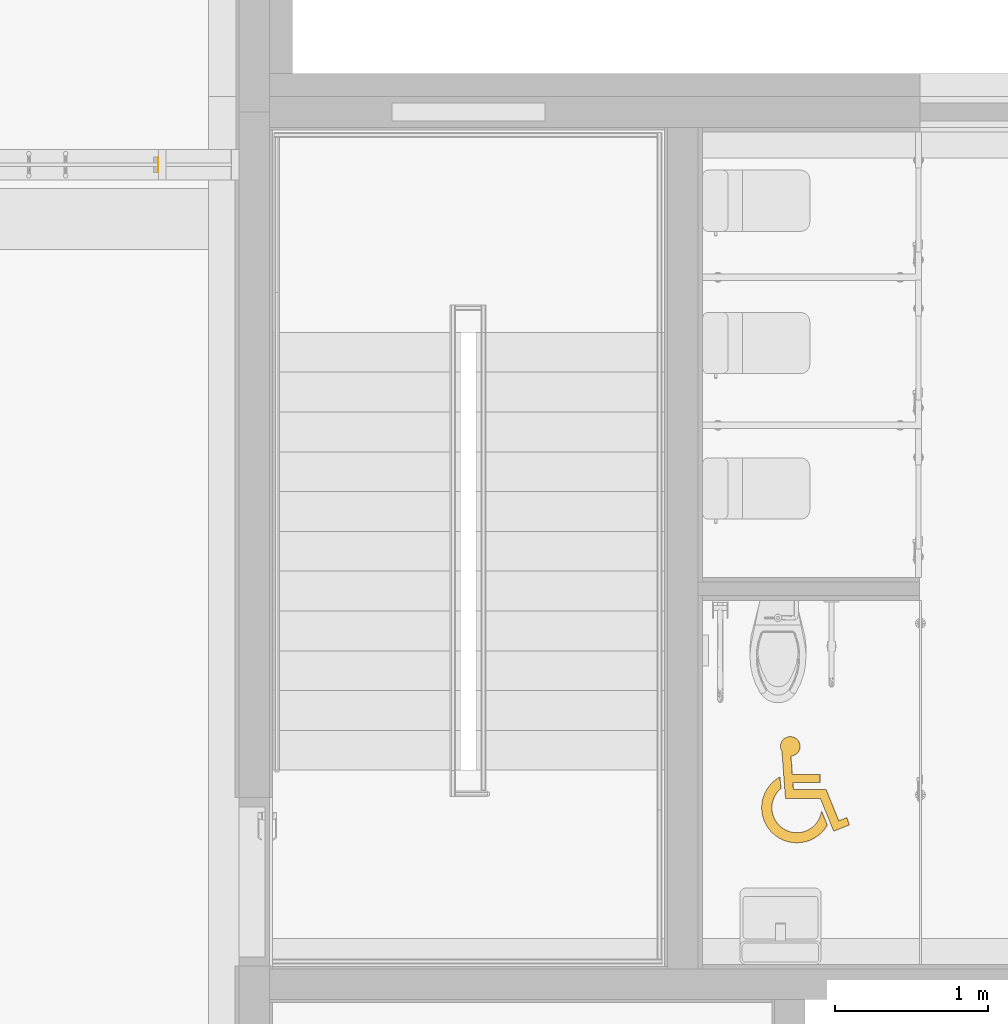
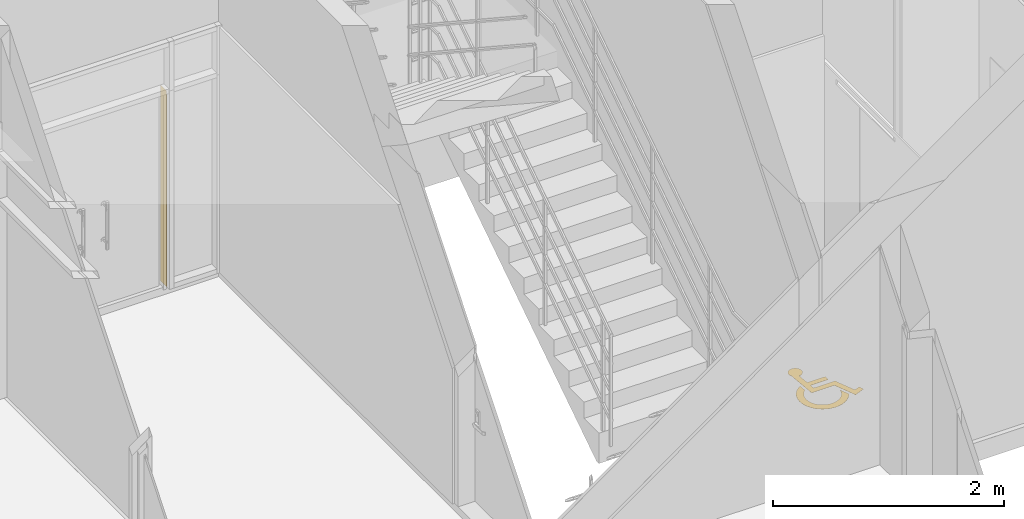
# One storey, part 72 of 81: 1 curtain wall, 1 door, 1 opening, 1 element without a shape of its own.
"""IFC2X3 building model written with IfcOpenShell, lengths in millimetres."""

from ifc_helpers import new_model, entity, si_unit, converted_unit, derived_unit, direction, frame, frame_2d, origin, place, context, subcontext, project, spatial, polyline, circle_curve, parameter, trimmed, segment, composite_curve, rectangle, outline, extrude, source, transform, mapped, material, material_list, layer, layer_set, layer_usage, type_object, type_shapes, element, aggregate, save


model = new_model("IFC2X3")

# Units and contexts
model_context = context("Model", 3, precision=0.01, world=origin(), true_north=direction((6.123031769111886e-17, 1.0)))
body_context = subcontext(model_context, "Body", "Model", "MODEL_VIEW")
ifc_project = project(units=[si_unit("LENGTHUNIT", "METRE", prefix="MILLI"), si_unit("AREAUNIT", "SQUARE_METRE"), si_unit("VOLUMEUNIT", "CUBIC_METRE"), converted_unit("PLANEANGLEUNIT", "DEGREE", entity("IfcRatioMeasure", 0.017453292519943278), si_unit("PLANEANGLEUNIT", "RADIAN"), dimensions=[0, 0, 0, 0, 0, 0, 0]), si_unit("MASSUNIT", "GRAM", prefix="KILO"), derived_unit("MASSDENSITYUNIT", [(si_unit("MASSUNIT", "GRAM", prefix="KILO"), 1), (si_unit("LENGTHUNIT", "METRE"), -3)]), derived_unit("MOMENTOFINERTIAUNIT", [(si_unit("LENGTHUNIT", "METRE"), 4)]), si_unit("TIMEUNIT", "SECOND"), si_unit("FREQUENCYUNIT", "HERTZ"), si_unit("THERMODYNAMICTEMPERATUREUNIT", "DEGREE_CELSIUS"), derived_unit("THERMALTRANSMITTANCEUNIT", [(si_unit("MASSUNIT", "GRAM", prefix="KILO"), 1), (si_unit("THERMODYNAMICTEMPERATUREUNIT", "KELVIN"), -1), (si_unit("TIMEUNIT", "SECOND"), -3)]), derived_unit("VOLUMETRICFLOWRATEUNIT", [(si_unit("LENGTHUNIT", "METRE"), 3), (si_unit("TIMEUNIT", "SECOND"), -1)]), derived_unit("MASSFLOWRATEUNIT", [(si_unit("MASSUNIT", "GRAM", prefix="KILO"), 1), (si_unit("TIMEUNIT", "SECOND"), -1)]), derived_unit("ROTATIONALFREQUENCYUNIT", [(si_unit("TIMEUNIT", "SECOND"), -1)]), si_unit("ELECTRICCURRENTUNIT", "AMPERE"), si_unit("ELECTRICVOLTAGEUNIT", "VOLT"), si_unit("POWERUNIT", "WATT"), si_unit("FORCEUNIT", "NEWTON", prefix="KILO"), si_unit("ILLUMINANCEUNIT", "LUX"), si_unit("LUMINOUSFLUXUNIT", "LUMEN"), si_unit("LUMINOUSINTENSITYUNIT", "CANDELA"), derived_unit("USERDEFINED", [(si_unit("MASSUNIT", "GRAM", prefix="KILO"), -1), (si_unit("LENGTHUNIT", "METRE"), -2), (si_unit("TIMEUNIT", "SECOND"), 3), (si_unit("LUMINOUSFLUXUNIT", "LUMEN"), 1)]), derived_unit("SOUNDPOWERUNIT", [(si_unit("MASSUNIT", "GRAM", prefix="KILO"), 1), (si_unit("LENGTHUNIT", "METRE"), 2), (si_unit("TIMEUNIT", "SECOND"), -3)]), derived_unit("SOUNDPRESSUREUNIT", [(si_unit("MASSUNIT", "GRAM", prefix="KILO"), 1), (si_unit("LENGTHUNIT", "METRE"), -1), (si_unit("TIMEUNIT", "SECOND"), -2)]), derived_unit("LINEARVELOCITYUNIT", [(si_unit("LENGTHUNIT", "METRE"), 1), (si_unit("TIMEUNIT", "SECOND"), -1)]), si_unit("PRESSUREUNIT", "PASCAL"), derived_unit("USERDEFINED", [(si_unit("LENGTHUNIT", "METRE"), -2), (si_unit("MASSUNIT", "GRAM", prefix="KILO"), 1), (si_unit("TIMEUNIT", "SECOND"), -2)]), derived_unit("LINEARFORCEUNIT", [(si_unit("MASSUNIT", "GRAM", prefix="KILO"), 1), (si_unit("LENGTHUNIT", "METRE"), 1), (si_unit("TIMEUNIT", "SECOND"), -2), (si_unit("LENGTHUNIT", "METRE"), -1)]), derived_unit("PLANARFORCEUNIT", [(si_unit("MASSUNIT", "GRAM", prefix="KILO"), 1), (si_unit("LENGTHUNIT", "METRE"), 1), (si_unit("TIMEUNIT", "SECOND"), -2), (si_unit("LENGTHUNIT", "METRE"), -2)])], contexts=[model_context])

# Site, building, storey
site_placement = place(None, frame((-14167.972527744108, -657.2125860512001, 0.0)))
site = spatial("IfcSite", under=ifc_project, at=site_placement, Name="Default", CompositionType="ELEMENT")
building_placement = place(site_placement, origin())
building = spatial("IfcBuilding", under=site, at=building_placement, Name="Sample Building", CompositionType="ELEMENT")
storey_placement = place(building_placement, frame((0.0, 0.0, 13400.0)))
storey = spatial("IfcBuildingStorey", under=building, at=storey_placement, Name="지상 4층", CompositionType="ELEMENT", Elevation=13400.00000000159)

# Curtain walls, opening
curtain_wall_type_1 = type_object("IfcCurtainWallType", Name="커튼월:CW112-스테인리스 스틸 커튼월", PredefinedType="NOTDEFINED")
curtain_wall_1_placement = place(storey_placement, frame((0.0, 0.0, -13400.0)))
curtain_wall_1 = element("IfcCurtainWall", 1, at=curtain_wall_1_placement, inside=storey, type_object=curtain_wall_type_1, Name="커튼월:CW112-스테인리스 스틸 커튼월", ObjectType="커튼월:CW112-스테인리스 스틸 커튼월")
ifc_material_1 = material(Name="KBIMS-콘크리트")
ifc_layer = layer(ifc_material_1, 100.0)
ifc_layer_set = layer_set([ifc_layer], Name="커튼월:CW112-스테인리스 스틸 커튼월")
ifc_layer_usage = layer_usage(ifc_layer_set, "AXIS2", "NEGATIVE", 50.0)
curtain_wall_type_2 = type_object("IfcCurtainWallType", Name="기본 벽:WA111-철근콘크리트구조 벽 100mm", PredefinedType="NOTDEFINED", material=ifc_layer_set)
curtain_wall_2_placement = place(storey_placement, frame((29541.09100563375, 27712.17793519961, 80.0), z_axis=(0.0, 0.0, 1.0), x_axis=(-1.0, 0.0, 0.0)))
curtain_wall_2 = element("IfcCurtainWall", 2, at=curtain_wall_2_placement, type_object=curtain_wall_type_2, material=ifc_layer_usage, Name="기본 벽:WA111-철근콘크리트구조 벽 100mm", ObjectType="기본 벽:WA111-철근콘크리트구조 벽 100mm", context=body_context, shape_type="SweptSolid", body=[
    extrude(rectangle(XDim=0.2563623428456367, YDim=99.99999999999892, at=frame_2d((0.0, -2.1671553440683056e-12), x_axis=(1.0, 0.0))), frame((0.12818117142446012, 0.0, 0.0)), (0.0, 0.0, 1.0), 2075.0000000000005),
])
opening_placement = place(curtain_wall_2_placement, frame((1450.2563623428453, 50.0, -25.0)))
element("IfcOpeningElement", 3, at=opening_placement, cuts=curtain_wall_2, Name="DR121-쌍여닫이문(철재, 일반, 양개):DR121-쌍여닫이문(유리, 일반, 양개) 1450x2100mm 2:1", ObjectType="Opening", context=body_context, shape_type="SweptSolid", body=[
    extrude(rectangle(XDim=2099.9999999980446, YDim=1449.9999999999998, at=frame_2d((1049.9999999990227, 724.9999999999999), x_axis=(1.0, 0.0))), frame((0.0, 0.0, 0.0), z_axis=(0.0, -1.0, 0.0), x_axis=(0.0, 0.0, 1.0)), (0.0, 0.0, 1.0), 100.0),
])
aggregate(curtain_wall_1, [curtain_wall_2])

# Door
ifc_material_2 = material(Name="KBIMS-노면용 페인트_진하늘색")
ifc_material_list = material_list([ifc_material_2, ifc_material_2])
door_style = type_object("IfcDoorStyle", Name="SE251-장애인전용 표시:SE251-장애인전용 표시", ConstructionType="NOTDEFINED", OperationType="NOTDEFINED", ParameterTakesPrecedence=False, Sizeable=False, material=ifc_material_list)
shared_shape = source(origin(), body_context, "Body", "SweptSolid", [
    extrude(outline(composite_curve([segment(trimmed(circle_curve(frame_2d((-36.68855283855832, -47.74251805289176), x_axis=(1.0, 0.0)), 229.68578343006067), [parameter(118.63343780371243)], [parameter(330.18087778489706)], True, "PARAMETER"), True, "CONTINUOUS"), segment(polyline([(162.58672770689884, -161.9568852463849), (125.13875807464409, -69.8626552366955)]), True, "CONTINUOUS"), segment(trimmed(circle_curve(frame_2d((-36.68855283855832, -47.74251805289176), x_axis=(1.0, 0.0)), 163.33211266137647), [parameter(129.67752554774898)], [parameter(352.21649007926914)], True, "PARAMETER"), False, "CONTINUOUS"), segment(polyline([(-140.97054841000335, 77.96605136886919), (-146.7549373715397, 153.85348911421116)]), True, "CONTINUOUS")], self_intersect=False)), frame((71.31807136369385, -37.57408412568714, 0.0)), (0.0, 0.0, 1.0), 1.5875),
    extrude(outline(composite_curve([segment(polyline([(-282.31222354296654, -186.97456283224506), (25.012127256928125, -186.974562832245)]), True, "CONTINUOUS"), segment(polyline([(25.012127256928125, -186.974562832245), (42.305091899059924, 39.89793596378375)]), True, "CONTINUOUS"), segment(polyline([(42.30509189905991, 39.89793596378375), (263.5159692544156, 110.7895168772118)]), True, "CONTINUOUS"), segment(polyline([(263.5159692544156, 110.7895168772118), (230.53394569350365, 215.81642815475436)]), True, "CONTINUOUS"), segment(polyline([(230.53394569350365, 215.81642815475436), (181.07321552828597, 202.95741624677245)]), True, "CONTINUOUS"), segment(polyline([(181.07321552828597, 202.95741624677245), (198.08692429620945, 148.77950087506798)]), True, "CONTINUOUS"), segment(polyline([(198.08692429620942, 148.77950087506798), (-10.806586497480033, 81.83527372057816)]), True, "CONTINUOUS"), segment(polyline([(-10.806586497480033, 81.83527372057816), (-27.016565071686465, -130.829149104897)]), True, "CONTINUOUS"), segment(polyline([(-27.01656507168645, -130.829149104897), (-74.51295100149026, -130.82914910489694)]), True, "CONTINUOUS"), segment(polyline([(-74.51295100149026, -130.82914910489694), (-60.984513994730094, 46.65518467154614)]), True, "CONTINUOUS"), segment(polyline([(-60.984513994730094, 46.65518467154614), (-111.87816757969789, 50.53446557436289)]), True, "CONTINUOUS"), segment(polyline([(-111.87816757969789, 50.53446557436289), (-125.70229607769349, -130.82914910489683)]), True, "CONTINUOUS"), segment(polyline([(-125.70229607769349, -130.82914910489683), (-247.3139701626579, -130.8291491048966)]), True, "CONTINUOUS"), segment(trimmed(circle_curve(frame_2d((-311.1107235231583, -130.04222235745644), x_axis=(0.07600280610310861, 0.9971076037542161)), 63.80160650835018), [parameter(273.6521413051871)], [parameter(211.19083029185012)], True, "PARAMETER"), True, "CONTINUOUS")], self_intersect=False)), frame((145.3871253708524, 15.097937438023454, 0.0), z_axis=(0.0, 0.0, 1.0), x_axis=(0.07600280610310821, -0.9971076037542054, 0.0)), (0.0, 0.0, 1.0), 1.5875),
])
type_shapes(door_style, [shared_shape])
door_placement = place(storey_placement, frame((33677.963692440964, 23597.21230348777, 0.0)))
element("IfcDoor", 4, at=door_placement, inside=storey, type_object=door_style, material=ifc_material_2, Name="SE251-장애인전용 표시:SE251-장애인전용 표시", ObjectType="SE251-장애인전용 표시:SE251-장애인전용 표시", OverallHeight=1.5875, OverallWidth=572.3706125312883, context=body_context, shape_type="MappedRepresentation", body=[
    mapped(shared_shape, transform((0.0, 0.0, 0.0), scale=1.0)),
])

save(model, "model.ifc")
